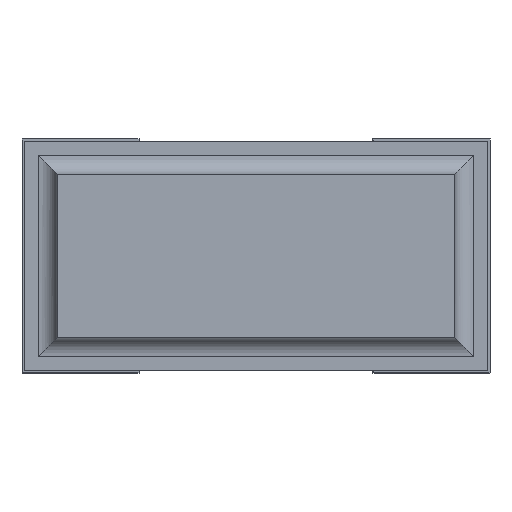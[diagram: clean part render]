
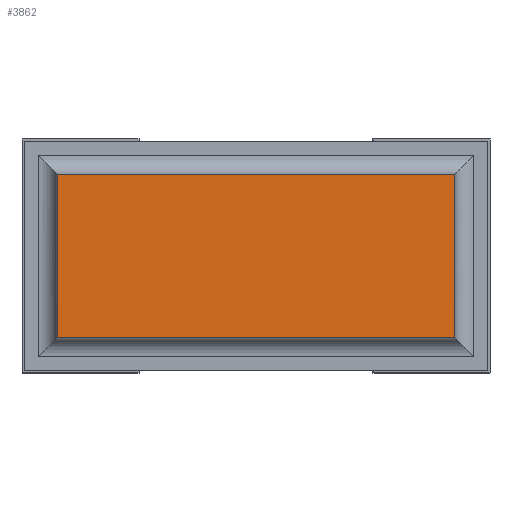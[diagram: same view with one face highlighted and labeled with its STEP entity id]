
A CAD part, front view. The second image highlights one B-rep face of the part: STEP entity #3862.
In plain terms, the highlighted planar face has unit normal (0, -1, 0).
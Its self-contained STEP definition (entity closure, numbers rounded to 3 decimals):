
#108=PLANE('',#4174);
#338=FACE_OUTER_BOUND('',#583,.T.);
#583=EDGE_LOOP('',(#3081,#3082,#3083,#3084));
#889=LINE('',#5813,#1381);
#897=LINE('',#5836,#1389);
#905=LINE('',#5849,#1397);
#906=LINE('',#5851,#1398);
#1381=VECTOR('',#4761,10.);
#1389=VECTOR('',#4779,10.);
#1397=VECTOR('',#4793,10.);
#1398=VECTOR('',#4796,10.);
#1881=VERTEX_POINT('',#5809);
#1882=VERTEX_POINT('',#5811);
#1891=VERTEX_POINT('',#5833);
#1892=VERTEX_POINT('',#5835);
#2309=EDGE_CURVE('',#1881,#1882,#889,.T.);
#2319=EDGE_CURVE('',#1891,#1892,#897,.T.);
#2327=EDGE_CURVE('',#1881,#1891,#905,.T.);
#2328=EDGE_CURVE('',#1892,#1882,#906,.T.);
#3081=ORIENTED_EDGE('',*,*,#2319,.F.);
#3082=ORIENTED_EDGE('',*,*,#2327,.F.);
#3083=ORIENTED_EDGE('',*,*,#2309,.T.);
#3084=ORIENTED_EDGE('',*,*,#2328,.F.);
#3862=ADVANCED_FACE('',(#338),#108,.T.);
#4174=AXIS2_PLACEMENT_3D('',#5850,#4794,#4795);
#4761=DIRECTION('',(0.,0.,-1.));
#4779=DIRECTION('',(0.,0.,-1.));
#4793=DIRECTION('',(1.,0.,0.));
#4794=DIRECTION('center_axis',(0.,-1.,0.));
#4795=DIRECTION('ref_axis',(0.,0.,-1.));
#4796=DIRECTION('',(-1.,0.,0.));
#5809=CARTESIAN_POINT('',(0.075,0.,0.425));
#5811=CARTESIAN_POINT('',(0.075,0.,0.075));
#5813=CARTESIAN_POINT('',(0.075,0.,0.425));
#5833=CARTESIAN_POINT('',(0.925,0.,0.425));
#5835=CARTESIAN_POINT('',(0.925,0.,0.075));
#5836=CARTESIAN_POINT('',(0.925,0.,0.425));
#5849=CARTESIAN_POINT('',(0.075,0.,0.425));
#5850=CARTESIAN_POINT('Origin',(0.926,0.,
0.25));
#5851=CARTESIAN_POINT('',(0.925,0.,0.075));
